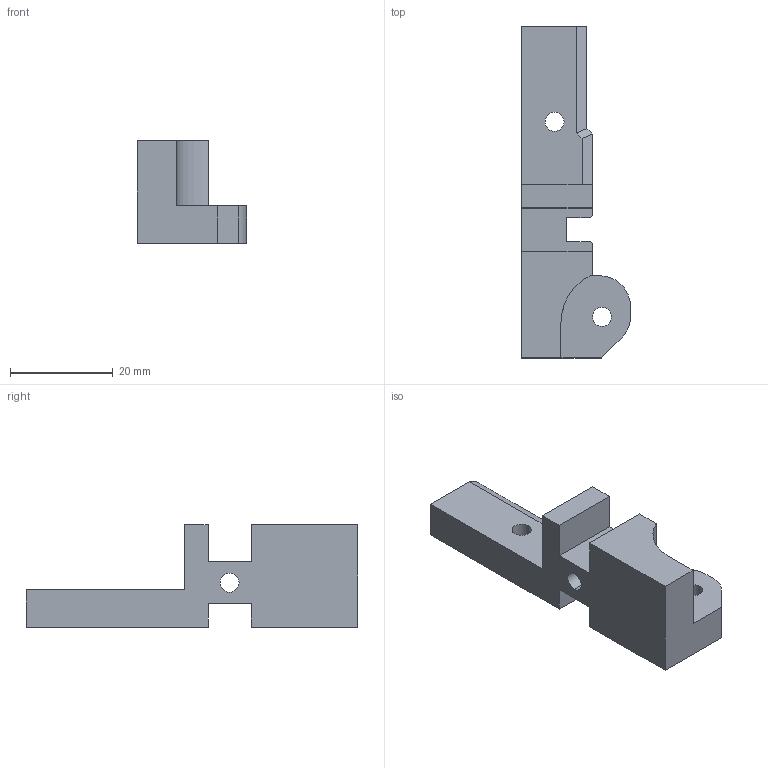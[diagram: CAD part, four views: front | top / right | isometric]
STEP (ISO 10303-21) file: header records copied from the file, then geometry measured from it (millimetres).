
FILE_DESCRIPTION (( 'STEP AP214' ), '1' );
FILE_NAME ('um2feeder_door.STEP', '2014-10-26T06:39:43', ( 'Frank' ), ( '' ), 'SwSTEP 2.0', 'SolidWorks 2013', '' );
FILE_SCHEMA (( 'AUTOMOTIVE_DESIGN' ));
Length unit declared in the file: millimetre
Products named in the file (1): um2feeder_door
Bounding box: 21.25 x 64.67 x 20 mm (x, y, z)
Volume: 9602 mm3; surface area: 4781.6 mm2
Topology: 1 solids, 1 shells, 61 faces, 165 edges, 108 vertices
Faces by surface type: plane 50, cylinder 9, cone 2
Entity records: 1939 total; most frequent: CARTESIAN_POINT 335, ORIENTED_EDGE 330, DIRECTION 309, EDGE_CURVE 165, VECTOR 145, LINE 145, VERTEX_POINT 108, AXIS2_PLACEMENT_3D 82
